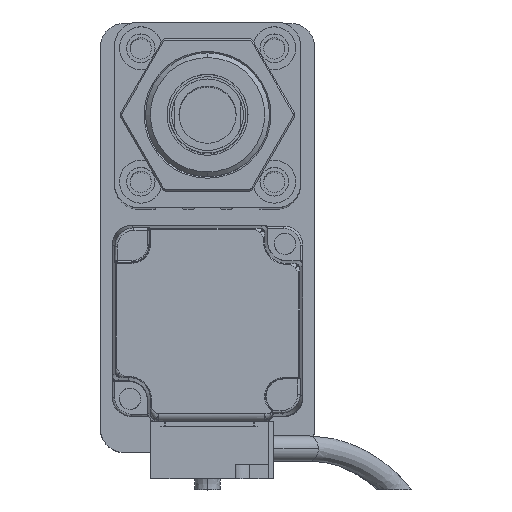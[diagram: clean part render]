
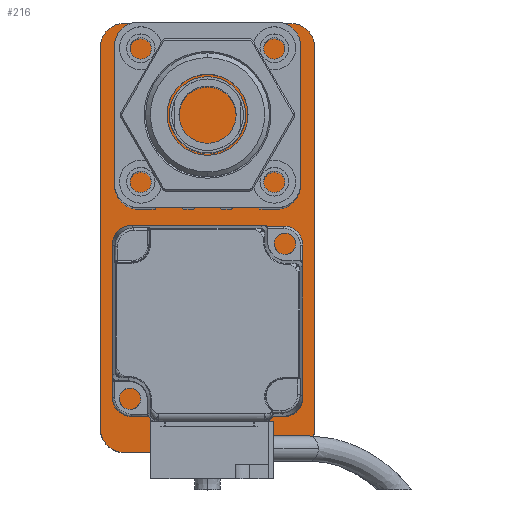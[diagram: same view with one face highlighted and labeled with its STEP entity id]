
A CAD part, top view. The second image highlights one B-rep face of the part: STEP entity #216.
In plain terms, the highlighted planar face has unit normal (0, 0, 1).
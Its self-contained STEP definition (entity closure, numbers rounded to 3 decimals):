
#216 = ADVANCED_FACE ( 'NONE', ( #433 ), #4042, .T. ) ;
#433 = FACE_OUTER_BOUND ( 'NONE', #2733, .T. ) ;
#1040 = CARTESIAN_POINT ( 'NONE',  ( -22.5, -40., 10. ) ) ;
#1692 = AXIS2_PLACEMENT_3D ( 'NONE', #25546, #8270, #17019 ) ;
#2733 = EDGE_LOOP ( 'NONE', ( #27514, #20808, #14356, #15596, #18393, #11397, #24404, #3798 ) ) ;
#3042 = EDGE_CURVE ( 'NONE', #9909, #11563, #18039, .T. ) ;
#3146 = VERTEX_POINT ( 'NONE', #11103 ) ;
#3798 = ORIENTED_EDGE ( 'NONE', *, *, #27444, .T. ) ;
#4042 = PLANE ( 'NONE',  #1692 ) ;
#4256 = CARTESIAN_POINT ( 'NONE',  ( 17.5, 45., 10. ) ) ;
#4392 = AXIS2_PLACEMENT_3D ( 'NONE', #26149, #19578, #23705 ) ;
#4738 = DIRECTION ( 'NONE',  ( 1., 0., 0. ) ) ;
#5294 = VERTEX_POINT ( 'NONE', #24940 ) ;
#5483 = VERTEX_POINT ( 'NONE', #12882 ) ;
#5525 = DIRECTION ( 'NONE',  ( 1., 0., 0. ) ) ;
#5908 = DIRECTION ( 'NONE',  ( -1., 0., 0. ) ) ;
#7248 = VERTEX_POINT ( 'NONE', #12252 ) ;
#7360 = DIRECTION ( 'NONE',  ( 0., -1., 0. ) ) ;
#7971 = CARTESIAN_POINT ( 'NONE',  ( 22.5, 45., 10. ) ) ;
#8107 = CIRCLE ( 'NONE', #27641, 5. ) ;
#8156 = VERTEX_POINT ( 'NONE', #18159 ) ;
#8173 = VECTOR ( 'NONE', #9599, 1000. ) ;
#8270 = DIRECTION ( 'NONE',  ( 0., 0., 1. ) ) ;
#8474 = VECTOR ( 'NONE', #10967, 1000. ) ;
#8680 = CARTESIAN_POINT ( 'NONE',  ( -17.5, 40., 10. ) ) ;
#8734 = CIRCLE ( 'NONE', #21555, 5. ) ;
#9180 = VECTOR ( 'NONE', #5908, 1000. ) ;
#9599 = DIRECTION ( 'NONE',  ( 1., 0., 0. ) ) ;
#9843 = DIRECTION ( 'NONE',  ( 0., 0., 1. ) ) ;
#9909 = VERTEX_POINT ( 'NONE', #1040 ) ;
#10035 = VECTOR ( 'NONE', #7360, 1000. ) ;
#10967 = DIRECTION ( 'NONE',  ( 0., 1., 0. ) ) ;
#11103 = CARTESIAN_POINT ( 'NONE',  ( 22.5, 40., 10. ) ) ;
#11397 = ORIENTED_EDGE ( 'NONE', *, *, #3042, .T. ) ;
#11563 = VERTEX_POINT ( 'NONE', #15389 ) ;
#11823 = CARTESIAN_POINT ( 'NONE',  ( 22.5, -45., 10. ) ) ;
#12128 = VERTEX_POINT ( 'NONE', #4256 ) ;
#12252 = CARTESIAN_POINT ( 'NONE',  ( 22.5, -40., 10. ) ) ;
#12882 = CARTESIAN_POINT ( 'NONE',  ( 17.5, -45., 10. ) ) ;
#13176 = LINE ( 'NONE', #7971, #9180 ) ;
#13375 = CIRCLE ( 'NONE', #26047, 5. ) ;
#14288 = CARTESIAN_POINT ( 'NONE',  ( 17.5, 40., 10. ) ) ;
#14356 = ORIENTED_EDGE ( 'NONE', *, *, #23450, .T. ) ;
#15389 = CARTESIAN_POINT ( 'NONE',  ( -17.5, -45., 10. ) ) ;
#15596 = ORIENTED_EDGE ( 'NONE', *, *, #26462, .T. ) ;
#16033 = EDGE_CURVE ( 'NONE', #11563, #5483, #19179, .T. ) ;
#17019 = DIRECTION ( 'NONE',  ( 1., 0., 0. ) ) ;
#17474 = CARTESIAN_POINT ( 'NONE',  ( 22.5, -45., 10. ) ) ;
#17547 = EDGE_CURVE ( 'NONE', #3146, #12128, #8107, .T. ) ;
#17685 = LINE ( 'NONE', #24612, #10035 ) ;
#17973 = DIRECTION ( 'NONE',  ( 1., 0., 0. ) ) ;
#18039 = CIRCLE ( 'NONE', #4392, 5. ) ;
#18159 = CARTESIAN_POINT ( 'NONE',  ( -17.5, 45., 10. ) ) ;
#18187 = EDGE_CURVE ( 'NONE', #5294, #9909, #17685, .T. ) ;
#18393 = ORIENTED_EDGE ( 'NONE', *, *, #18187, .T. ) ;
#19179 = LINE ( 'NONE', #11823, #8173 ) ;
#19578 = DIRECTION ( 'NONE',  ( 0., 0., 1. ) ) ;
#20808 = ORIENTED_EDGE ( 'NONE', *, *, #17547, .T. ) ;
#21555 = AXIS2_PLACEMENT_3D ( 'NONE', #24330, #26510, #17973 ) ;
#23450 = EDGE_CURVE ( 'NONE', #12128, #8156, #13176, .T. ) ;
#23705 = DIRECTION ( 'NONE',  ( 1., 0., 0. ) ) ;
#23977 = DIRECTION ( 'NONE',  ( 0., 0., 1. ) ) ;
#24302 = EDGE_CURVE ( 'NONE', #7248, #3146, #26521, .T. ) ;
#24330 = CARTESIAN_POINT ( 'NONE',  ( 17.5, -40., 10. ) ) ;
#24404 = ORIENTED_EDGE ( 'NONE', *, *, #16033, .T. ) ;
#24612 = CARTESIAN_POINT ( 'NONE',  ( -22.5, -45., 10. ) ) ;
#24940 = CARTESIAN_POINT ( 'NONE',  ( -22.5, 40., 10. ) ) ;
#25546 = CARTESIAN_POINT ( 'NONE',  ( 0., 0., 10. ) ) ;
#26047 = AXIS2_PLACEMENT_3D ( 'NONE', #8680, #23977, #4738 ) ;
#26149 = CARTESIAN_POINT ( 'NONE',  ( -17.5, -40., 10. ) ) ;
#26462 = EDGE_CURVE ( 'NONE', #8156, #5294, #13375, .T. ) ;
#26510 = DIRECTION ( 'NONE',  ( 0., 0., 1. ) ) ;
#26521 = LINE ( 'NONE', #17474, #8474 ) ;
#27444 = EDGE_CURVE ( 'NONE', #5483, #7248, #8734, .T. ) ;
#27514 = ORIENTED_EDGE ( 'NONE', *, *, #24302, .T. ) ;
#27641 = AXIS2_PLACEMENT_3D ( 'NONE', #14288, #9843, #5525 ) ;
